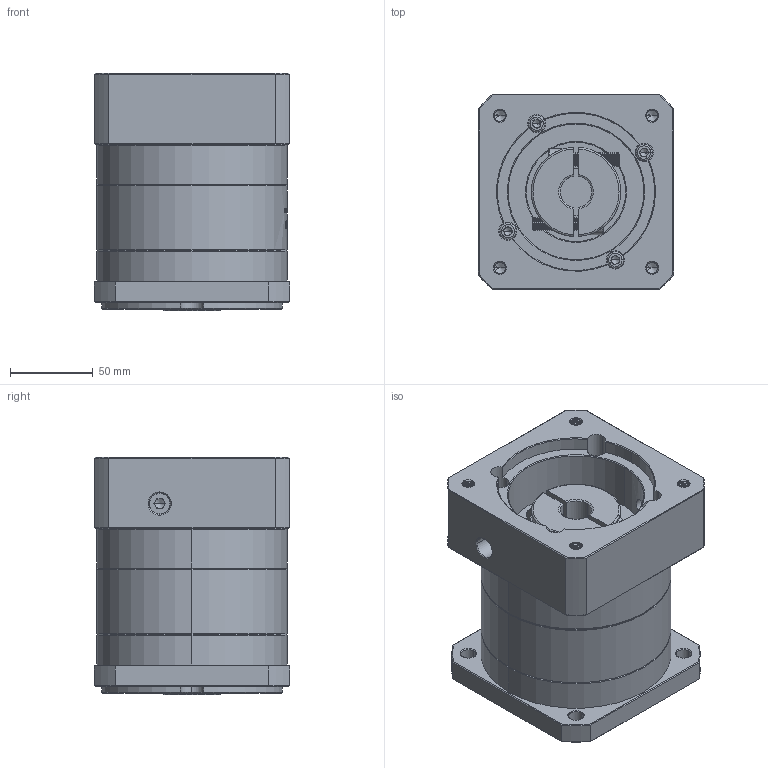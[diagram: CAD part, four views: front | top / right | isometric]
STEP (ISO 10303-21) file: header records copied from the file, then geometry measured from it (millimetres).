
FILE_DESCRIPTION (( 'STEP AP214' ), '1' );
FILE_NAME ('ZF120A-K25-L1-19-95-130-M8.step', '2023-03-07T09:36:29', ( '' ), ( '' ), 'SwSTEP 2.0', 'SolidWorks 2016', '' );
FILE_SCHEMA (( 'AUTOMOTIVE_DESIGN' ));
Length unit declared in the file: millimetre
Products named in the file (1): ZF120A-K25-L1-19-95-130-M8
Bounding box: 118 x 118 x 143.5 mm (x, y, z)
Volume: 1418321.9 mm3; surface area: 163470.8 mm2
Topology: 6 solids, 6 shells, 1895 faces, 4963 edges, 3162 vertices
Faces by surface type: plane 850, cylinder 392, cone 321, bspline 312, torus 20
Entity records: 101671 total; most frequent: CARTESIAN_POINT 37746, ORIENTED_EDGE 9870, DIRECTION 7693, EDGE_CURVE 4935, VERTEX_POINT 3162, LINE 2697, VECTOR 2697, AXIS2_PLACEMENT_3D 2498
